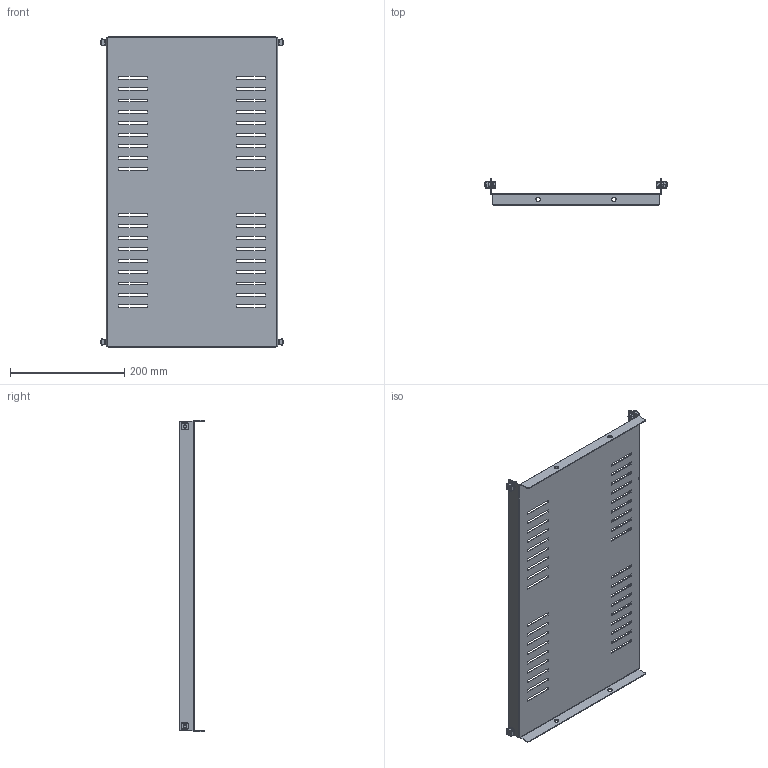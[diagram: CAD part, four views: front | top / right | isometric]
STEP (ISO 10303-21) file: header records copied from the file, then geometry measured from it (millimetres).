
FILE_DESCRIPTION (( 'STEP AP203' ), '1' );
FILE_NAME ('R5RF460.STEP', '2019-08-07T13:29:58', ( '' ), ( '' ), 'SwSTEP 2.0', 'SolidWorks 2017', '' );
FILE_SCHEMA (( 'CONFIG_CONTROL_DESIGN' ));
Length unit declared in the file: millimetre
Products named in the file (13): A1100004; A3400008; R5RF460; QB09C435
Assembly tree (9 placements, depth 2):
  A1100004
  A1100004
  A3400008
  R5RF460
    QB09C435
    A1100004  x4
    A3400008  x4
  QB09C435
Bounding box: 320 x 45 x 544 mm (x, y, z)
Volume: 290860 mm3; surface area: 396048.9 mm2
Topology: 9 solids, 9 shells, 866 faces, 2428 edges, 1580 vertices
Faces by surface type: plane 530, cylinder 248, cone 72, torus 16
Entity records: 13776 total; most frequent: CARTESIAN_POINT 2465, ORIENTED_EDGE 2144, DIRECTION 1990, EDGE_CURVE 1072, LINE 816, VECTOR 816, VERTEX_POINT 698, AXIS2_PLACEMENT_3D 587
